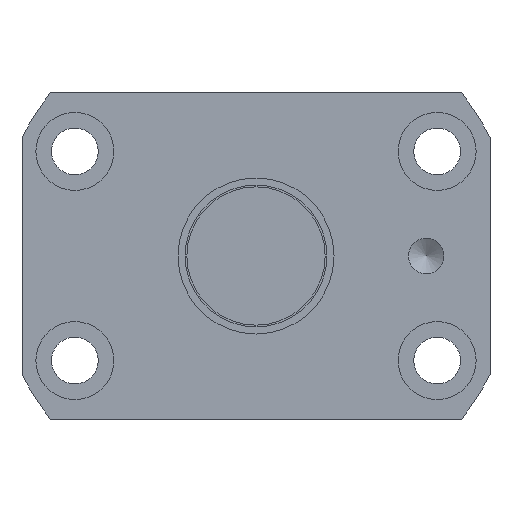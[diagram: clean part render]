
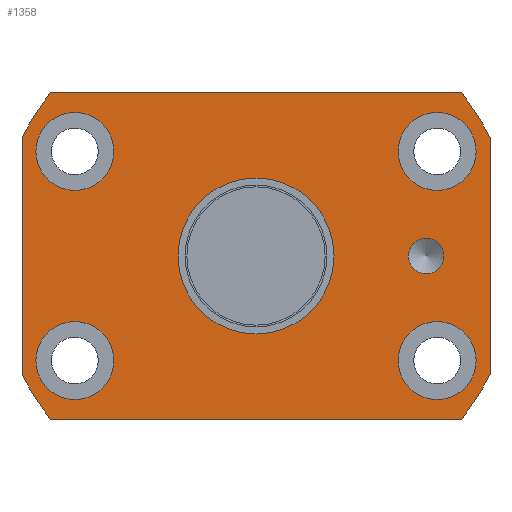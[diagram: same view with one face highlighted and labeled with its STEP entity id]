
A CAD part, left-side view. The second image highlights one B-rep face of the part: STEP entity #1358.
In plain terms, the highlighted planar face has unit normal (-1, 0, 0).
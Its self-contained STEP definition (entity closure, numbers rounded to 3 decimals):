
#50 = DIRECTION ( 'NONE',  ( 0., 1., 0. ) ) ;
#57 = VERTEX_POINT ( 'NONE', #89 ) ;
#83 = CIRCLE ( 'NONE', #903, 37. ) ;
#89 = CARTESIAN_POINT ( 'NONE',  ( 0., 11., 0. ) ) ;
#108 = DIRECTION ( 'NONE',  ( 1., 0., 0. ) ) ;
#128 = EDGE_CURVE ( 'NONE', #2496, #2496, #841, .T. ) ;
#133 = EDGE_LOOP ( 'NONE', ( #1201 ) ) ;
#160 = ORIENTED_EDGE ( 'NONE', *, *, #1420, .T. ) ;
#162 = ORIENTED_EDGE ( 'NONE', *, *, #2405, .T. ) ;
#186 = CARTESIAN_POINT ( 'NONE',  ( 0., 31.048, 14.75 ) ) ;
#241 = FACE_BOUND ( 'NONE', #1153, .T. ) ;
#281 = CARTESIAN_POINT ( 'NONE',  ( 0., -25.548, -14.75 ) ) ;
#290 = EDGE_CURVE ( 'NONE', #3244, #3244, #1337, .T. ) ;
#297 = VERTEX_POINT ( 'NONE', #3035 ) ;
#310 = EDGE_CURVE ( 'NONE', #834, #297, #2803, .T. ) ;
#316 = AXIS2_PLACEMENT_3D ( 'NONE', #1143, #384, #2422 ) ;
#325 = DIRECTION ( 'NONE',  ( 0., 1., 0. ) ) ;
#344 = EDGE_CURVE ( 'NONE', #2897, #2000, #3052, .T. ) ;
#347 = EDGE_CURVE ( 'NONE', #424, #424, #1437, .T. ) ;
#384 = DIRECTION ( 'NONE',  ( 1., 0., 0. ) ) ;
#424 = VERTEX_POINT ( 'NONE', #1464 ) ;
#469 = DIRECTION ( 'NONE',  ( 0., 0., 1. ) ) ;
#497 = FACE_BOUND ( 'NONE', #133, .T. ) ;
#526 = VERTEX_POINT ( 'NONE', #2586 ) ;
#582 = AXIS2_PLACEMENT_3D ( 'NONE', #1340, #3130, #1176 ) ;
#677 = CARTESIAN_POINT ( 'NONE',  ( 0., -20.048, 14.75 ) ) ;
#727 = EDGE_LOOP ( 'NONE', ( #1614, #2730, #2260, #2930, #1088, #1377, #1712, #2992 ) ) ;
#742 = CARTESIAN_POINT ( 'NONE',  ( 0., 28.983, 23. ) ) ;
#743 = DIRECTION ( 'NONE',  ( -1., 0., 0. ) ) ;
#747 = VERTEX_POINT ( 'NONE', #3225 ) ;
#775 = LINE ( 'NONE', #1318, #2728 ) ;
#787 = DIRECTION ( 'NONE',  ( 0., 1., 0. ) ) ;
#805 = CARTESIAN_POINT ( 'NONE',  ( 0., 28.983, -23. ) ) ;
#810 = EDGE_CURVE ( 'NONE', #1817, #2064, #1820, .T. ) ;
#822 = CARTESIAN_POINT ( 'NONE',  ( 0., 0., 0. ) ) ;
#834 = VERTEX_POINT ( 'NONE', #742 ) ;
#841 = CIRCLE ( 'NONE', #1007, 5.5 ) ;
#860 = CARTESIAN_POINT ( 'NONE',  ( 0., 0., 0. ) ) ;
#902 = CARTESIAN_POINT ( 'NONE',  ( 0., -28.983, -23. ) ) ;
#903 = AXIS2_PLACEMENT_3D ( 'NONE', #3100, #1885, #787 ) ;
#1000 = EDGE_CURVE ( 'NONE', #747, #1817, #775, .T. ) ;
#1007 = AXIS2_PLACEMENT_3D ( 'NONE', #2411, #2395, #325 ) ;
#1041 = LINE ( 'NONE', #3339, #2414 ) ;
#1071 = AXIS2_PLACEMENT_3D ( 'NONE', #1691, #3046, #1519 ) ;
#1088 = ORIENTED_EDGE ( 'NONE', *, *, #310, .F. ) ;
#1089 = EDGE_CURVE ( 'NONE', #3195, #2897, #1113, .T. ) ;
#1113 = CIRCLE ( 'NONE', #2627, 37. ) ;
#1143 = CARTESIAN_POINT ( 'NONE',  ( 0., 0., 0. ) ) ;
#1153 = EDGE_LOOP ( 'NONE', ( #1919 ) ) ;
#1176 = DIRECTION ( 'NONE',  ( 0., 1., 0. ) ) ;
#1192 = CARTESIAN_POINT ( 'NONE',  ( 0., 33., -16.733 ) ) ;
#1199 = DIRECTION ( 'NONE',  ( 1., 0., 0. ) ) ;
#1201 = ORIENTED_EDGE ( 'NONE', *, *, #128, .T. ) ;
#1269 = CARTESIAN_POINT ( 'NONE',  ( 0., 33., -23. ) ) ;
#1274 = CARTESIAN_POINT ( 'NONE',  ( 0., 17., 0. ) ) ;
#1298 = DIRECTION ( 'NONE',  ( 0., 0., 1. ) ) ;
#1318 = CARTESIAN_POINT ( 'NONE',  ( 0., -33., 23. ) ) ;
#1337 = CIRCLE ( 'NONE', #3218, 5.5 ) ;
#1340 = CARTESIAN_POINT ( 'NONE',  ( 0., 25.548, -14.75 ) ) ;
#1358 = ADVANCED_FACE ( 'NONE', ( #1514, #2875, #241, #497, #2862, #2844, #2535 ), #1546, .T. ) ;
#1377 = ORIENTED_EDGE ( 'NONE', *, *, #1378, .F. ) ;
#1378 = EDGE_CURVE ( 'NONE', #2000, #834, #83, .T. ) ;
#1420 = EDGE_CURVE ( 'NONE', #2780, #2780, #1822, .T. ) ;
#1437 = CIRCLE ( 'NONE', #2130, 2.5 ) ;
#1464 = CARTESIAN_POINT ( 'NONE',  ( 0., -24., 2.5 ) ) ;
#1506 = CARTESIAN_POINT ( 'NONE',  ( 0., -24., 0. ) ) ;
#1514 = FACE_BOUND ( 'NONE', #3205, .T. ) ;
#1519 = DIRECTION ( 'NONE',  ( 0., 1., 0. ) ) ;
#1541 = DIRECTION ( 'NONE',  ( 0., 0., 1. ) ) ;
#1546 = PLANE ( 'NONE',  #1765 ) ;
#1614 = ORIENTED_EDGE ( 'NONE', *, *, #3028, .F. ) ;
#1691 = CARTESIAN_POINT ( 'NONE',  ( 0., 0., 0. ) ) ;
#1712 = ORIENTED_EDGE ( 'NONE', *, *, #344, .F. ) ;
#1715 = CARTESIAN_POINT ( 'NONE',  ( 0., 33., 23. ) ) ;
#1765 = AXIS2_PLACEMENT_3D ( 'NONE', #1274, #2049, #1298 ) ;
#1771 = EDGE_CURVE ( 'NONE', #526, #526, #2793, .T. ) ;
#1776 = EDGE_CURVE ( 'NONE', #297, #747, #3122, .T. ) ;
#1784 = DIRECTION ( 'NONE',  ( 0., 1., 0. ) ) ;
#1816 = DIRECTION ( 'NONE',  ( 0., 0., -1. ) ) ;
#1817 = VERTEX_POINT ( 'NONE', #2945 ) ;
#1820 = CIRCLE ( 'NONE', #3332, 37. ) ;
#1822 = CIRCLE ( 'NONE', #2788, 5.5 ) ;
#1857 = CARTESIAN_POINT ( 'NONE',  ( 0., 33., 16.733 ) ) ;
#1885 = DIRECTION ( 'NONE',  ( 1., 0., 0. ) ) ;
#1919 = ORIENTED_EDGE ( 'NONE', *, *, #290, .T. ) ;
#1965 = DIRECTION ( 'NONE',  ( 0., 1., 0. ) ) ;
#1981 = CIRCLE ( 'NONE', #1071, 11. ) ;
#2000 = VERTEX_POINT ( 'NONE', #1857 ) ;
#2049 = DIRECTION ( 'NONE',  ( -1., 0., 0. ) ) ;
#2064 = VERTEX_POINT ( 'NONE', #902 ) ;
#2130 = AXIS2_PLACEMENT_3D ( 'NONE', #1506, #743, #1541 ) ;
#2260 = ORIENTED_EDGE ( 'NONE', *, *, #1000, .F. ) ;
#2277 = ORIENTED_EDGE ( 'NONE', *, *, #347, .F. ) ;
#2315 = CARTESIAN_POINT ( 'NONE',  ( 0., -20.048, -14.75 ) ) ;
#2336 = DIRECTION ( 'NONE',  ( 0., 1., 0. ) ) ;
#2395 = DIRECTION ( 'NONE',  ( 1., 0., 0. ) ) ;
#2405 = EDGE_CURVE ( 'NONE', #57, #57, #1981, .T. ) ;
#2406 = DIRECTION ( 'NONE',  ( 0., 1., 0. ) ) ;
#2411 = CARTESIAN_POINT ( 'NONE',  ( 0., 25.548, 14.75 ) ) ;
#2414 = VECTOR ( 'NONE', #1784, 1000. ) ;
#2421 = ORIENTED_EDGE ( 'NONE', *, *, #1771, .T. ) ;
#2422 = DIRECTION ( 'NONE',  ( 0., 1., 0. ) ) ;
#2496 = VERTEX_POINT ( 'NONE', #186 ) ;
#2508 = CARTESIAN_POINT ( 'NONE',  ( 0., -25.548, 14.75 ) ) ;
#2535 = FACE_BOUND ( 'NONE', #3088, .T. ) ;
#2570 = DIRECTION ( 'NONE',  ( 1., 0., 0. ) ) ;
#2586 = CARTESIAN_POINT ( 'NONE',  ( 0., 31.048, -14.75 ) ) ;
#2627 = AXIS2_PLACEMENT_3D ( 'NONE', #822, #3200, #50 ) ;
#2689 = EDGE_LOOP ( 'NONE', ( #160 ) ) ;
#2728 = VECTOR ( 'NONE', #1816, 1000. ) ;
#2730 = ORIENTED_EDGE ( 'NONE', *, *, #810, .F. ) ;
#2775 = EDGE_LOOP ( 'NONE', ( #2421 ) ) ;
#2780 = VERTEX_POINT ( 'NONE', #2315 ) ;
#2788 = AXIS2_PLACEMENT_3D ( 'NONE', #281, #2570, #2336 ) ;
#2793 = CIRCLE ( 'NONE', #582, 5.5 ) ;
#2803 = LINE ( 'NONE', #1715, #3054 ) ;
#2844 = FACE_OUTER_BOUND ( 'NONE', #727, .T. ) ;
#2862 = FACE_BOUND ( 'NONE', #2689, .T. ) ;
#2875 = FACE_BOUND ( 'NONE', #2775, .T. ) ;
#2897 = VERTEX_POINT ( 'NONE', #1192 ) ;
#2930 = ORIENTED_EDGE ( 'NONE', *, *, #1776, .F. ) ;
#2945 = CARTESIAN_POINT ( 'NONE',  ( 0., -33., -16.733 ) ) ;
#2992 = ORIENTED_EDGE ( 'NONE', *, *, #1089, .F. ) ;
#3028 = EDGE_CURVE ( 'NONE', #2064, #3195, #1041, .T. ) ;
#3035 = CARTESIAN_POINT ( 'NONE',  ( 0., -28.983, 23. ) ) ;
#3046 = DIRECTION ( 'NONE',  ( 1., 0., 0. ) ) ;
#3052 = LINE ( 'NONE', #1269, #3158 ) ;
#3054 = VECTOR ( 'NONE', #3308, 1000. ) ;
#3088 = EDGE_LOOP ( 'NONE', ( #162 ) ) ;
#3100 = CARTESIAN_POINT ( 'NONE',  ( 0., 0., 0. ) ) ;
#3122 = CIRCLE ( 'NONE', #316, 37. ) ;
#3130 = DIRECTION ( 'NONE',  ( 1., 0., 0. ) ) ;
#3158 = VECTOR ( 'NONE', #469, 1000. ) ;
#3195 = VERTEX_POINT ( 'NONE', #805 ) ;
#3200 = DIRECTION ( 'NONE',  ( 1., 0., 0. ) ) ;
#3205 = EDGE_LOOP ( 'NONE', ( #2277 ) ) ;
#3218 = AXIS2_PLACEMENT_3D ( 'NONE', #2508, #1199, #1965 ) ;
#3225 = CARTESIAN_POINT ( 'NONE',  ( 0., -33., 16.733 ) ) ;
#3244 = VERTEX_POINT ( 'NONE', #677 ) ;
#3308 = DIRECTION ( 'NONE',  ( 0., -1., 0. ) ) ;
#3332 = AXIS2_PLACEMENT_3D ( 'NONE', #860, #108, #2406 ) ;
#3339 = CARTESIAN_POINT ( 'NONE',  ( 0., -33., -23. ) ) ;
